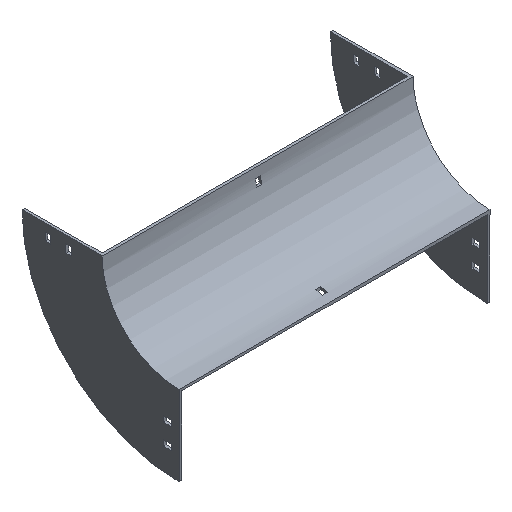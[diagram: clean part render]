
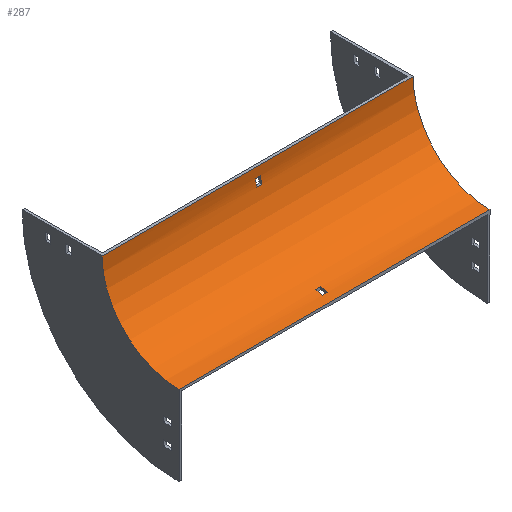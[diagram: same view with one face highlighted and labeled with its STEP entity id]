
A CAD part, isometric view. The second image highlights one B-rep face of the part: STEP entity #287.
In plain terms, the highlighted cylindrical face has radius 100 mm (diameter 200 mm), a partial arc.
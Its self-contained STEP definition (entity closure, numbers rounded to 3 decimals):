
#11 = DIRECTION ( 'NONE',  ( 0., 1., 0. ) ) ;
#16 = ORIENTED_EDGE ( 'NONE', *, *, #92, .T. ) ;
#23 = AXIS2_PLACEMENT_3D ( 'NONE', #935, #1693, #1591 ) ;
#38 = VECTOR ( 'NONE', #1222, 1000. ) ;
#48 = VERTEX_POINT ( 'NONE', #902 ) ;
#57 = CYLINDRICAL_SURFACE ( 'NONE', #927, 100. ) ;
#83 = VECTOR ( 'NONE', #388, 1000. ) ;
#92 = EDGE_CURVE ( 'NONE', #1134, #1694, #634, .T. ) ;
#103 = EDGE_CURVE ( 'NONE', #1686, #1134, #1449, .T. ) ;
#117 = EDGE_CURVE ( 'NONE', #675, #1394, #189, .T. ) ;
#180 = ORIENTED_EDGE ( 'NONE', *, *, #854, .T. ) ;
#189 = LINE ( 'NONE', #942, #83 ) ;
#193 = ORIENTED_EDGE ( 'NONE', *, *, #103, .T. ) ;
#211 = ORIENTED_EDGE ( 'NONE', *, *, #1208, .F. ) ;
#231 = CARTESIAN_POINT ( 'NONE',  ( 202., -100., 0. ) ) ;
#241 = DIRECTION ( 'NONE',  ( 1., 0., 0. ) ) ;
#257 = DIRECTION ( 'NONE',  ( 0., 0., 1. ) ) ;
#259 = CIRCLE ( 'NONE', #1311, 100. ) ;
#270 = DIRECTION ( 'NONE',  ( 1., 0., 0. ) ) ;
#273 = CARTESIAN_POINT ( 'NONE',  ( 202., -2.23, -21. ) ) ;
#285 = ORIENTED_EDGE ( 'NONE', *, *, #338, .T. ) ;
#287 = ADVANCED_FACE ( 'NONE', ( #884, #328, #1402 ), #57, .F. ) ;
#328 = FACE_BOUND ( 'NONE', #1574, .T. ) ;
#338 = EDGE_CURVE ( 'NONE', #969, #675, #815, .T. ) ;
#351 = EDGE_LOOP ( 'NONE', ( #16, #427, #211, #193 ) ) ;
#371 = DIRECTION ( 'NONE',  ( 0., -1., 0. ) ) ;
#375 = CARTESIAN_POINT ( 'NONE',  ( 3.25, -100., 0. ) ) ;
#377 = EDGE_CURVE ( 'NONE', #956, #1618, #574, .T. ) ;
#388 = DIRECTION ( 'NONE',  ( 1., 0., 0. ) ) ;
#406 = AXIS2_PLACEMENT_3D ( 'NONE', #1280, #899, #371 ) ;
#427 = ORIENTED_EDGE ( 'NONE', *, *, #834, .F. ) ;
#505 = CARTESIAN_POINT ( 'NONE',  ( 202., -79., -97.77 ) ) ;
#521 = DIRECTION ( 'NONE',  ( -1., 0., 0. ) ) ;
#536 = ORIENTED_EDGE ( 'NONE', *, *, #1662, .F. ) ;
#560 = VERTEX_POINT ( 'NONE', #1622 ) ;
#572 = DIRECTION ( 'NONE',  ( -1., 0., 0. ) ) ;
#574 = CIRCLE ( 'NONE', #406, 100. ) ;
#600 = CARTESIAN_POINT ( 'NONE',  ( 3.25, -88., -99.277 ) ) ;
#634 = CIRCLE ( 'NONE', #23, 100. ) ;
#674 = LINE ( 'NONE', #944, #1365 ) ;
#675 = VERTEX_POINT ( 'NONE', #1390 ) ;
#699 = LINE ( 'NONE', #273, #38 ) ;
#700 = CARTESIAN_POINT ( 'NONE',  ( -3.25, -100., 0. ) ) ;
#755 = VECTOR ( 'NONE', #1052, 1000. ) ;
#761 = DIRECTION ( 'NONE',  ( -1., 0., 0. ) ) ;
#809 = LINE ( 'NONE', #1086, #755 ) ;
#815 = CIRCLE ( 'NONE', #1440, 100. ) ;
#834 = EDGE_CURVE ( 'NONE', #1673, #1694, #809, .T. ) ;
#854 = EDGE_CURVE ( 'NONE', #560, #969, #699, .T. ) ;
#863 = EDGE_LOOP ( 'NONE', ( #1489, #1116, #1399, #536 ) ) ;
#884 = FACE_OUTER_BOUND ( 'NONE', #351, .T. ) ;
#897 = CARTESIAN_POINT ( 'NONE',  ( 202., -100., 0. ) ) ;
#899 = DIRECTION ( 'NONE',  ( 1., 0., 0. ) ) ;
#902 = CARTESIAN_POINT ( 'NONE',  ( -3.25, -88., -99.277 ) ) ;
#908 = DIRECTION ( 'NONE',  ( 0., 0., 1. ) ) ;
#927 = AXIS2_PLACEMENT_3D ( 'NONE', #231, #1032, #908 ) ;
#935 = CARTESIAN_POINT ( 'NONE',  ( -202., -100., 0. ) ) ;
#942 = CARTESIAN_POINT ( 'NONE',  ( 202., -0.723, -12. ) ) ;
#944 = CARTESIAN_POINT ( 'NONE',  ( 202., -88., -99.277 ) ) ;
#956 = VERTEX_POINT ( 'NONE', #600 ) ;
#969 = VERTEX_POINT ( 'NONE', #975 ) ;
#970 = AXIS2_PLACEMENT_3D ( 'NONE', #375, #521, #1138 ) ;
#973 = AXIS2_PLACEMENT_3D ( 'NONE', #897, #1287, #1555 ) ;
#975 = CARTESIAN_POINT ( 'NONE',  ( -3.25, -2.23, -21. ) ) ;
#1007 = EDGE_CURVE ( 'NONE', #1394, #560, #1484, .T. ) ;
#1032 = DIRECTION ( 'NONE',  ( -1., 0., 0. ) ) ;
#1052 = DIRECTION ( 'NONE',  ( -1., 0., 0. ) ) ;
#1086 = CARTESIAN_POINT ( 'NONE',  ( 202., -100., -100. ) ) ;
#1116 = ORIENTED_EDGE ( 'NONE', *, *, #1534, .F. ) ;
#1127 = VERTEX_POINT ( 'NONE', #1687 ) ;
#1134 = VERTEX_POINT ( 'NONE', #1414 ) ;
#1138 = DIRECTION ( 'NONE',  ( 0., 0., -1. ) ) ;
#1152 = CARTESIAN_POINT ( 'NONE',  ( -3.25, -100., 0. ) ) ;
#1161 = LINE ( 'NONE', #505, #1531 ) ;
#1208 = EDGE_CURVE ( 'NONE', #1686, #1673, #1519, .T. ) ;
#1219 = ORIENTED_EDGE ( 'NONE', *, *, #117, .T. ) ;
#1222 = DIRECTION ( 'NONE',  ( -1., 0., 0. ) ) ;
#1227 = ORIENTED_EDGE ( 'NONE', *, *, #1007, .T. ) ;
#1280 = CARTESIAN_POINT ( 'NONE',  ( 3.25, -100., 0. ) ) ;
#1287 = DIRECTION ( 'NONE',  ( -1., 0., 0. ) ) ;
#1307 = CARTESIAN_POINT ( 'NONE',  ( 3.25, -79., -97.77 ) ) ;
#1311 = AXIS2_PLACEMENT_3D ( 'NONE', #700, #572, #11 ) ;
#1365 = VECTOR ( 'NONE', #270, 1000. ) ;
#1371 = EDGE_CURVE ( 'NONE', #1127, #48, #259, .T. ) ;
#1390 = CARTESIAN_POINT ( 'NONE',  ( -3.25, -0.723, -12. ) ) ;
#1394 = VERTEX_POINT ( 'NONE', #1621 ) ;
#1399 = ORIENTED_EDGE ( 'NONE', *, *, #377, .F. ) ;
#1402 = FACE_BOUND ( 'NONE', #863, .T. ) ;
#1414 = CARTESIAN_POINT ( 'NONE',  ( -202., 0., 0. ) ) ;
#1416 = VECTOR ( 'NONE', #1557, 1000. ) ;
#1432 = CARTESIAN_POINT ( 'NONE',  ( 202., 0., 0. ) ) ;
#1440 = AXIS2_PLACEMENT_3D ( 'NONE', #1152, #241, #257 ) ;
#1444 = CARTESIAN_POINT ( 'NONE',  ( -202., -100., -100. ) ) ;
#1449 = LINE ( 'NONE', #1432, #1416 ) ;
#1461 = CARTESIAN_POINT ( 'NONE',  ( 202., -100., -100. ) ) ;
#1484 = CIRCLE ( 'NONE', #970, 100. ) ;
#1489 = ORIENTED_EDGE ( 'NONE', *, *, #1371, .F. ) ;
#1519 = CIRCLE ( 'NONE', #973, 100. ) ;
#1531 = VECTOR ( 'NONE', #761, 1000. ) ;
#1534 = EDGE_CURVE ( 'NONE', #1618, #1127, #1161, .T. ) ;
#1555 = DIRECTION ( 'NONE',  ( 0., 0., 1. ) ) ;
#1557 = DIRECTION ( 'NONE',  ( -1., 0., 0. ) ) ;
#1574 = EDGE_LOOP ( 'NONE', ( #180, #285, #1219, #1227 ) ) ;
#1591 = DIRECTION ( 'NONE',  ( 0., 0., 1. ) ) ;
#1604 = CARTESIAN_POINT ( 'NONE',  ( 202., 0., 0. ) ) ;
#1618 = VERTEX_POINT ( 'NONE', #1307 ) ;
#1621 = CARTESIAN_POINT ( 'NONE',  ( 3.25, -0.723, -12. ) ) ;
#1622 = CARTESIAN_POINT ( 'NONE',  ( 3.25, -2.23, -21. ) ) ;
#1662 = EDGE_CURVE ( 'NONE', #48, #956, #674, .T. ) ;
#1673 = VERTEX_POINT ( 'NONE', #1461 ) ;
#1686 = VERTEX_POINT ( 'NONE', #1604 ) ;
#1687 = CARTESIAN_POINT ( 'NONE',  ( -3.25, -79., -97.77 ) ) ;
#1693 = DIRECTION ( 'NONE',  ( -1., 0., 0. ) ) ;
#1694 = VERTEX_POINT ( 'NONE', #1444 ) ;
